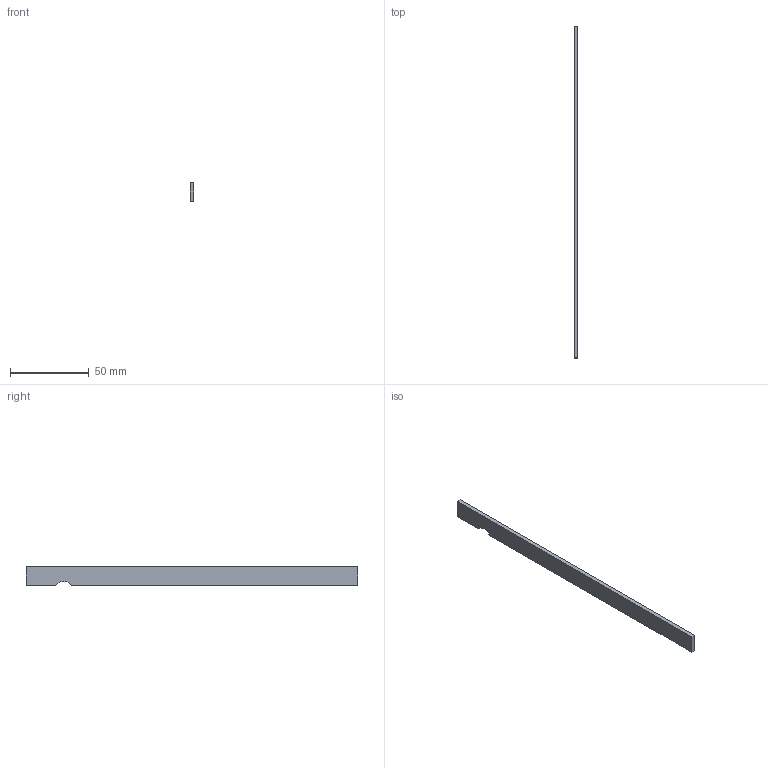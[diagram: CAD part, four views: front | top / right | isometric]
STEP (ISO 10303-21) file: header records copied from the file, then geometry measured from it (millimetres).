
FILE_DESCRIPTION(('FreeCAD Model'),'2;1');
FILE_NAME('Open CASCADE Shape Model','2026-10-12T22:45:25',('FreeCAD'),( 'FreeCAD'),'Open CASCADE STEP processor 7.8','FreeCAD','Unknown');
FILE_SCHEMA(('AUTOMOTIVE_DESIGN { 1 0 10303 214 1 1 1 1 }'));
Length unit declared in the file: millimetre
Products named in the file (1): Open CASCADE STEP translator 7.8 8
Bounding box: 2.5 x 211 x 12 mm (x, y, z)
Volume: 6284.1 mm3; surface area: 6146.3 mm2
Topology: 1 solids, 1 shells, 10 faces, 28 edges, 20 vertices
Faces by surface type: plane 8, cylinder 2
Entity records: 342 total; most frequent: CARTESIAN_POINT 59, DIRECTION 58, ORIENTED_EDGE 56, EDGE_CURVE 28, VERTEX_POINT 20, LINE 20, VECTOR 20, AXIS2_PLACEMENT_3D 19
